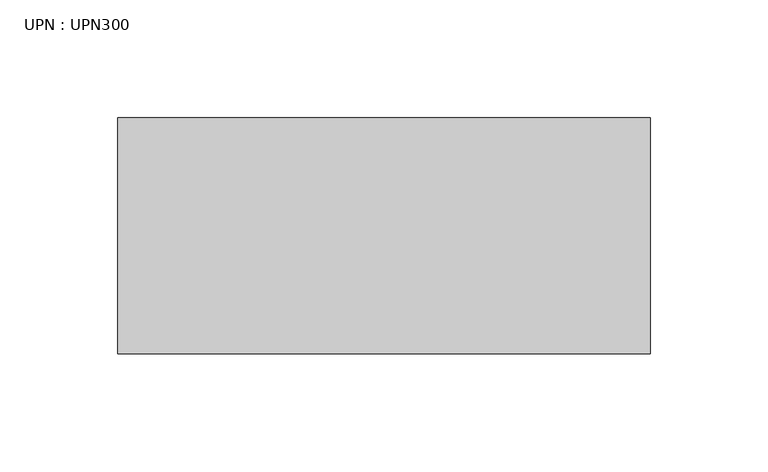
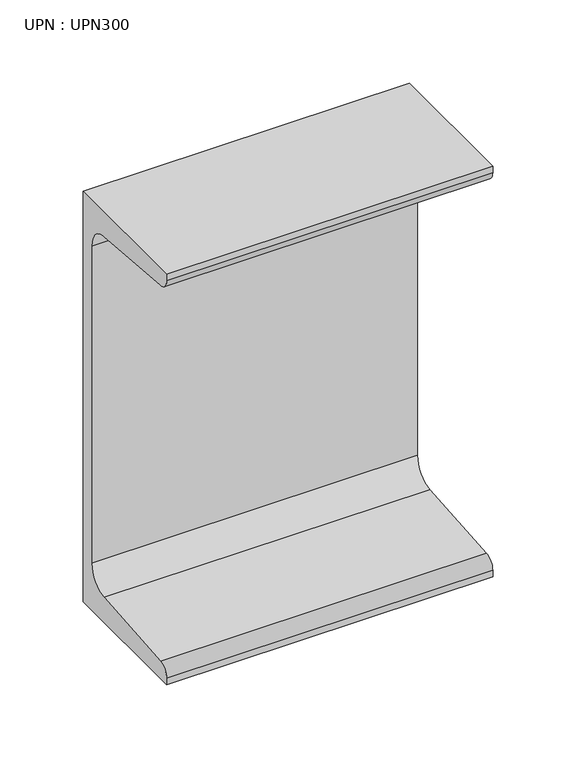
"""IFC4 building model written with IfcOpenShell, lengths in millimetres: beam geometry, UPN : UPN300."""

from ifc_helpers import new_model, si_unit, point, frame, frame_2d, origin, place, context, project, spatial, polyline, circle_curve, trimmed, segment, composite_curve, outline, extrude, source, transform, mapped, element, save


def upn_upn300_02a14aa8(model_context):
    return source(origin(), model_context, "Body", "SweptSolid", [
        extrude(outline(composite_curve([segment(polyline([(27.0, 150.0), (27.0, -150.0), (-73.0, -150.0), (-73.0, -145.3826224)]), True, "CONTINUOUS"), segment(trimmed(circle_curve(frame_2d((-65.0, -145.3826224)), 8.0), [point((-73.0, -145.3826224))], [point((-65.637416, -137.4080566))], False, "CARTESIAN"), True, "CONTINUOUS"), segment(polyline([(-65.637416, -137.4080566), (2.274832, -131.9797543)]), True, "CONTINUOUS"), segment(trimmed(circle_curve(frame_2d((1.0, -116.0306225)), 16.0), [point((2.274832, -131.9797543))], [point((17.0, -116.0306225))], True, "CARTESIAN"), True, "CONTINUOUS"), segment(polyline([(17.0, -116.0306225), (17.0, 116.0306225)]), True, "CONTINUOUS"), segment(trimmed(circle_curve(frame_2d((1.0, 116.0306225)), 16.0), [point((17.0, 116.0306225))], [point((2.274832, 131.9797543))], True, "CARTESIAN"), True, "CONTINUOUS"), segment(polyline([(2.274832, 131.9797543), (-65.637416, 137.4080566)]), True, "CONTINUOUS"), segment(trimmed(circle_curve(frame_2d((-65.0, 145.3826224)), 8.0), [point((-65.637416, 137.4080566))], [point((-73.0, 145.3826224))], False, "CARTESIAN"), True, "CONTINUOUS"), segment(polyline([(-73.0, 145.3826224), (-73.0, 150.0), (27.0, 150.0)]), True, "CONTINUOUS")], self_intersect=False)), frame((-126.4, 0.0, 0.0), z_axis=(1.0, 0.0, 0.0), x_axis=(0.0, 1.0, 0.0)), (0.0, 0.0, 1.0), 225.6),
    ])


if __name__ == "__main__":
    model = new_model("IFC4")
    model_context = context("Model", 3, world=origin())
    ifc_project = project(units=[si_unit("LENGTHUNIT", "METRE", prefix="MILLI")], contexts=[model_context])
    site = spatial("IfcSite", under=ifc_project)
    building = spatial("IfcBuilding", under=site)
    placement = place(None, origin())
    upn_upn300_shape = upn_upn300_02a14aa8(model_context)
    element("IfcBeam", 1, ObjectType="UPN : UPN300", at=placement, inside=building, context=model_context, shape_type="MappedRepresentation", body=[
        mapped(upn_upn300_shape, transform((0.0, 0.0, 0.0), x_axis=(1.0, 0.0, 0.0), y_axis=(0.0, 1.0, 0.0), z_axis=(0.0, 0.0, 1.0))),
    ])
    save(model, "model.ifc")
